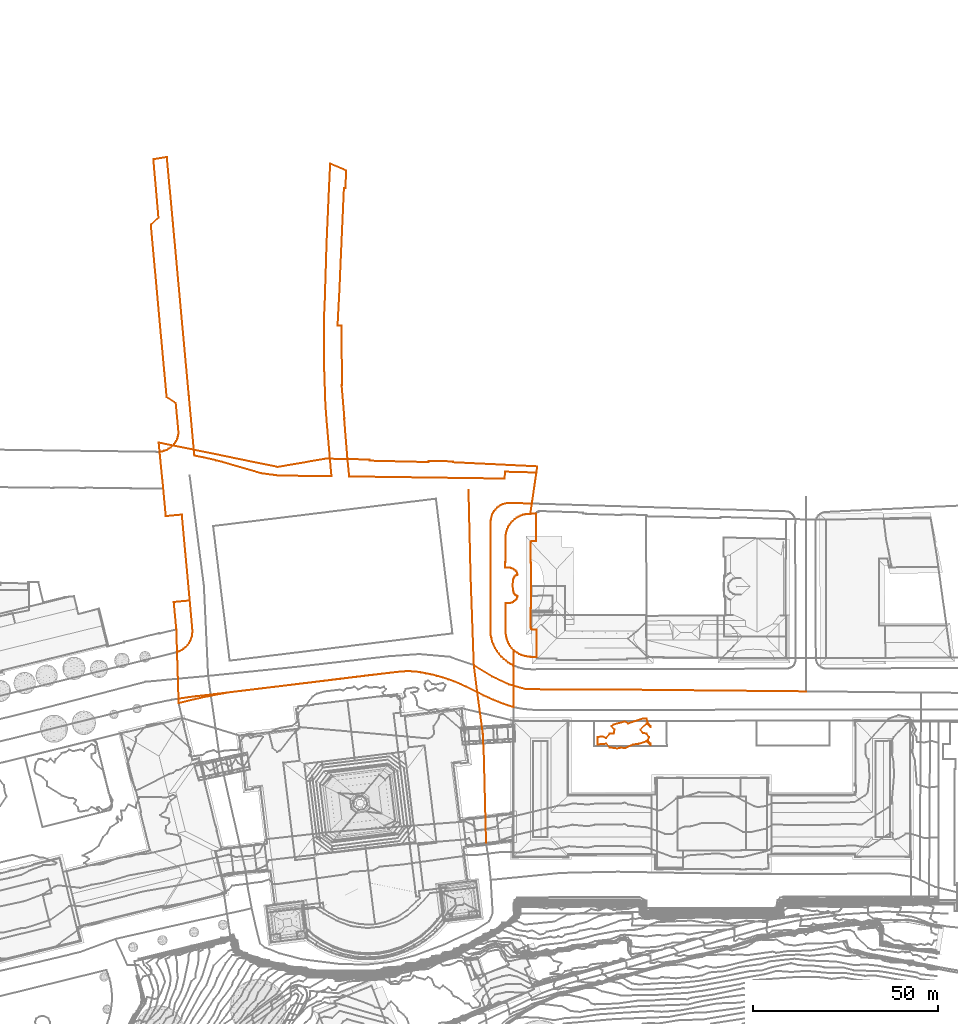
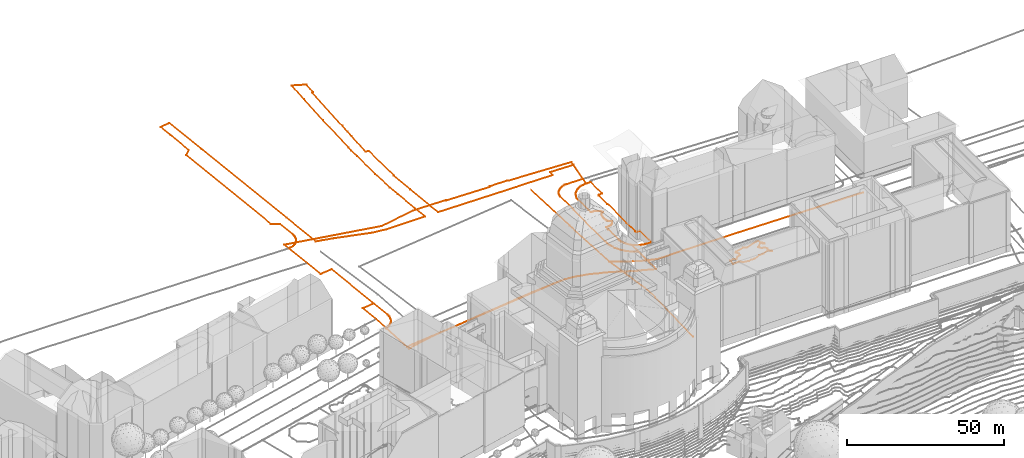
# Not in any storey, part 221 of 494: 7 proxies.
"""IFC2X3 model written with IfcOpenShell, lengths in metres."""

from ifc_helpers import new_model, entity, si_unit, frame, origin_with_axes, place, context, subcontext, project, element, save


model = new_model("IFC2X3")

# Units and contexts
model_context = context("Model", 3, precision=1e-05, world=origin_with_axes())
body_context = subcontext(model_context, "Body", "Model", "MODEL_VIEW")
ifc_project = project(units=[si_unit("AREAUNIT", "SQUARE_METRE"), si_unit("LENGTHUNIT", "METRE")], contexts=[model_context])

# Proxies
proxy_1_placement = place(None, frame((561.5467320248, 472.1697287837, 542.297), z_axis=(0.0, 0.0, 1.0), x_axis=(1.0, 0.0, 0.0)))
element("IfcBuildingElementProxy", 1, at=proxy_1_placement, Name="Road 25", ObjectType="NOTDEFINED", context=body_context, shape_type="GeometricCurveSet", body=[
    entity("IfcGeometricCurveSet", [entity("IfcPolyline", [entity("IfcCartesianPoint", [0.0, 0.0, 0.0]), entity("IfcCartesianPoint", [0.5760000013, -23.728999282, 0.206]), entity("IfcCartesianPoint", [1.4389999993, -47.6029985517, 0.356])])]),
])
proxy_2_placement = place(None, frame((562.9857320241, 424.566730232, 542.653), z_axis=(0.0, 0.0, 1.0), x_axis=(1.0, 0.0, 0.0)))
element("IfcBuildingElementProxy", 2, at=proxy_2_placement, Name="Road 26", ObjectType="NOTDEFINED", context=body_context, shape_type="GeometricCurveSet", body=[
    entity("IfcGeometricCurveSet", [entity("IfcPolyline", [entity("IfcCartesianPoint", [0.0, 0.0, 0.0]), entity("IfcCartesianPoint", [4.8900000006, -3.0199999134, 0.102]), entity("IfcCartesianPoint", [9.4910000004, -5.1759998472, 0.099]), entity("IfcCartesianPoint", [14.0930000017, -6.4709998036, -0.02]), entity("IfcCartesianPoint", [43.7400000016, -6.6069997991, 0.012]), entity("IfcCartesianPoint", [89.7010000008, -7.0479997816, -0.167])])]),
])
proxy_3_placement = place(None, frame((562.9857320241, 424.566730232, 542.653), z_axis=(0.0, 0.0, 1.0), x_axis=(1.0, 0.0, 0.0)))
element("IfcBuildingElementProxy", 3, at=proxy_3_placement, Name="Road 197", ObjectType="NOTDEFINED", context=body_context, shape_type="GeometricCurveSet", body=[
    entity("IfcGeometricCurveSet", [entity("IfcPolyline", [entity("IfcCartesianPoint", [0.0, 0.0, 0.0]), entity("IfcCartesianPoint", [1.1610000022, -9.0579997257, 0.049]), entity("IfcCartesianPoint", [2.438000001, -18.5469994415, 0.179]), entity("IfcCartesianPoint", [2.7100000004, -24.5709992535, 0.168]), entity("IfcCartesianPoint", [3.3120000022, -47.9159985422, -1.302])])]),
])
proxy_4_placement = place(None, frame((571.4827320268, 450.9747160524, 542.8571121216), z_axis=(0.0, 0.0, 1.0), x_axis=(1.0, 0.0, 0.0)))
element("IfcBuildingElementProxy", 4, at=proxy_4_placement, Name="Roads Outline 69", ObjectType="NOTDEFINED", context=body_context, shape_type="GeometricCurveSet", body=[
    entity("IfcGeometricCurveSet", [entity("IfcPolyline", [entity("IfcCartesianPoint", [0.0, 0.0, 0.0]), entity("IfcCartesianPoint", [0.0019999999, 1.5090000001, -1.40381e-05]), entity("IfcCartesianPoint", [0.0630000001, 1.517, -0.0004421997]), entity("IfcCartesianPoint", [0.0290000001, 7.8489999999, -0.0002035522]), entity("IfcCartesianPoint", [0.0519999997, 8.5090000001, -0.0003649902]), entity("IfcCartesianPoint", [0.142, 9.1629999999, -0.0009967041]), entity("IfcCartesianPoint", [0.298, 9.8049999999, -0.0020916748]), entity("IfcCartesianPoint", [0.517, 10.4280000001, -0.0036288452]), entity("IfcCartesianPoint", [0.798, 11.0249999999, -0.0045324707]), entity("IfcCartesianPoint", [1.1379999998, 11.591, -0.0033911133]), entity("IfcCartesianPoint", [1.5329999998, 12.1200000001, -0.0020651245]), entity("IfcCartesianPoint", [1.9789999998, 12.6070000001, 0.0097111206]), entity("IfcCartesianPoint", [2.4720000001, 13.0460000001, 0.0292096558]), entity("IfcCartesianPoint", [3.0060000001, 13.433, 0.037744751]), entity("IfcCartesianPoint", [3.577, 13.7650000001, 0.0372219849]), entity("IfcCartesianPoint", [4.179, 14.037, 0.0449423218]), entity("IfcCartesianPoint", [4.804, 14.247, 0.0559094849]), entity("IfcCartesianPoint", [5.4479999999, 14.3929999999, 0.0713963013]), entity("IfcCartesianPoint", [6.1030000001, 14.4739999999, 0.0801749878]), entity("IfcCartesianPoint", [6.7629999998, 14.4880000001, 0.0804135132]), entity("IfcCartesianPoint", [6.7709999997, 14.55, 0.0799569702]), entity("IfcCartesianPoint", [8.2719999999, 14.5490000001, 0.0282827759]), entity("IfcCartesianPoint", [8.3029999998, 7.4669999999, 0.0283395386]), entity("IfcCartesianPoint", [8.3029999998, 7.2169999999, 0.0283395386]), entity("IfcCartesianPoint", [7.3509999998, 7.2150000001, 0.046857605]), entity("IfcCartesianPoint", [7.3470000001, 7.1629999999, 0.0470858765]), entity("IfcCartesianPoint", [7.156, 7.1229999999, 0.0579858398]), entity("IfcCartesianPoint", [6.9950000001, 7.014, 0.0671737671]), entity("IfcCartesianPoint", [6.8879999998, 6.851, 0.0732800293]), entity("IfcCartesianPoint", [6.8509999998, 6.6599999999, 0.0753915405]), entity("IfcCartesianPoint", [6.8029999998, 6.648, 0.0781307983]), entity("IfcCartesianPoint", [6.8079999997, 1.318, 0.077845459]), entity("IfcCartesianPoint", [6.9079999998, 1.318, 0.0721386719]), entity("IfcCartesianPoint", [6.9469999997, -10.912, 0.0699130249]), entity("IfcCartesianPoint", [6.8489999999, -10.9129999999, 0.0755056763]), entity("IfcCartesianPoint", [6.8679999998, -16.2649999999, 0.0744213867]), entity("IfcCartesianPoint", [6.915, -16.2660000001, 0.0717391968]), entity("IfcCartesianPoint", [6.9509999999, -16.456, 0.0696847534]), entity("IfcCartesianPoint", [7.057, -16.6170000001, 0.0636355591]), entity("IfcCartesianPoint", [7.2209999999, -16.7290000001, 0.0542764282]), entity("IfcCartesianPoint", [7.415, -16.7690000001, 0.0432052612]), entity("IfcCartesianPoint", [7.4139999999, -16.818, 0.0432623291]), entity("IfcCartesianPoint", [8.3840000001, -16.8030000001, 0.028487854]), entity("IfcCartesianPoint", [8.3899999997, -24.1569999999, 0.054523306]), entity("IfcCartesianPoint", [6.8769999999, -24.169, 0.0649339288]), entity("IfcCartesianPoint", [6.8759999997, -24.095, 0.0657276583]), entity("IfcCartesianPoint", [6.23, -24.068, 0.0655939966]), entity("IfcCartesianPoint", [5.5889999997, -23.98, 0.0566184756]), entity("IfcCartesianPoint", [4.96, -23.8300000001, 0.0345990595]), entity("IfcCartesianPoint", [4.3479999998, -23.621, 0.029925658]), entity("IfcCartesianPoint", [3.7590000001, -23.3540000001, 0.0353835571]), entity("IfcCartesianPoint", [3.199, -23.031, 0.0375680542]), entity("IfcCartesianPoint", [2.6719999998, -22.6569999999, 0.037119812]), entity("IfcCartesianPoint", [2.1829999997, -22.233, 0.01777948]), entity("IfcCartesianPoint", [1.736, -21.763, 0.0001002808]), entity("IfcCartesianPoint", [1.3359999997, -21.2520000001, -0.0027264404]), entity("IfcCartesianPoint", [0.9879999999, -20.7050000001, -0.0038946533]), entity("IfcCartesianPoint", [0.693, -20.1270000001, -0.0048641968]), entity("IfcCartesianPoint", [0.4559999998, -19.524, -0.0032006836]), entity("IfcCartesianPoint", [0.2779999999, -18.8999999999, -0.0019512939]), entity("IfcCartesianPoint", [0.1599999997, -18.2619999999, -0.0011230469]), entity("IfcCartesianPoint", [0.105, -17.6159999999, -0.0007369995]), entity("IfcCartesianPoint", [0.0949999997, -11.1089999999, -0.0006668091]), entity("IfcCartesianPoint", [0.0209999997, -11.1000000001, -0.0001473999]), entity("IfcCartesianPoint", [0.02, -9.5900000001, -0.0001403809]), entity("IfcCartesianPoint", [0.7739999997, -9.588, -0.0046130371]), entity("IfcCartesianPoint", [0.7779999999, -9.6189999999, -0.0045996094]), entity("IfcCartesianPoint", [1.213, -9.598, -0.0031393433]), entity("IfcCartesianPoint", [1.6379999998, -9.504, -0.0017126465]), entity("IfcCartesianPoint", [2.0409999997, -9.341, 0.012163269]), entity("IfcCartesianPoint", [2.412, -9.1129999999, 0.0268366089]), entity("IfcCartesianPoint", [2.7399999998, -8.825, 0.0379882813]), entity("IfcCartesianPoint", [3.0149999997, -8.486, 0.0377365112]), entity("IfcCartesianPoint", [3.2289999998, -8.1059999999, 0.0375405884]), entity("IfcCartesianPoint", [3.3769999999, -7.6950000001, 0.0374050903]), entity("IfcCartesianPoint", [3.088, -7.6040000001, 0.0376696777]), entity("IfcCartesianPoint", [2.8219999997, -7.4579999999, 0.037913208]), entity("IfcCartesianPoint", [2.5899999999, -7.2619999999, 0.033876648]), entity("IfcCartesianPoint", [2.4019999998, -7.024, 0.0264411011]), entity("IfcCartesianPoint", [2.264, -6.754, 0.0209830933]), entity("IfcCartesianPoint", [2.1829999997, -6.4620000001, 0.01777948]), entity("IfcCartesianPoint", [2.074, -5.817, 0.0134684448]), entity("IfcCartesianPoint", [2.0159999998, -5.165, 0.0111744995]), entity("IfcCartesianPoint", [2.0109999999, -4.5109999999, 0.0109767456]), entity("IfcCartesianPoint", [2.057, -3.858, 0.0127960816]), entity("IfcCartesianPoint", [2.1540000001, -3.2109999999, 0.0166325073]), entity("IfcCartesianPoint", [2.2390000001, -2.916, 0.0199943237]), entity("IfcCartesianPoint", [2.378, -2.642, 0.0254918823]), entity("IfcCartesianPoint", [2.5669999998, -2.3999999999, 0.03296698]), entity("IfcCartesianPoint", [2.7990000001, -2.1980000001, 0.0379342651]), entity("IfcCartesianPoint", [3.0639999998, -2.0430000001, 0.0376916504]), entity("IfcCartesianPoint", [3.3539999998, -1.942, 0.0374261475]), entity("IfcCartesianPoint", [3.2059999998, -1.5289999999, 0.0375616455]), entity("IfcCartesianPoint", [2.9929999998, -1.1459999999, 0.0377566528]), entity("IfcCartesianPoint", [2.7199999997, -0.8030000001, 0.0380065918]), entity("IfcCartesianPoint", [2.3939999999, -0.51, 0.0261246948]), entity("IfcCartesianPoint", [2.0249999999, -0.274, 0.0115304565]), entity("IfcCartesianPoint", [1.622, -0.102, -0.0017663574]), entity("IfcCartesianPoint", [1.1969999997, 0.0020000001, -0.0031930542]), entity("IfcCartesianPoint", [0.7599999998, 0.0349999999, -0.0046600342]), entity("IfcCartesianPoint", [0.7560000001, -0.004, -0.0046734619]), entity("IfcCartesianPoint", [0.0, 0.0, 0.0])])]),
])
proxy_5_placement = place(None, frame((475.7277320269, 543.5787160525, 542.5539154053), z_axis=(0.0, 0.0, 1.0), x_axis=(1.0, 0.0, 0.0)))
element("IfcBuildingElementProxy", 5, at=proxy_5_placement, Name="Roads Outline 94", ObjectType="NOTDEFINED", context=body_context, shape_type="GeometricCurveSet", body=[
    entity("IfcGeometricCurveSet", [entity("IfcPolyline", [entity("IfcCartesianPoint", [0.0, 0.0, 0.0]), entity("IfcCartesianPoint", [2.068, 1.969, -0.0192946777]), entity("IfcCartesianPoint", [1.173, 12.1569999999, 0.0020645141]), entity("IfcCartesianPoint", [0.6849999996, 17.71, 0.0102554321]), entity("IfcCartesianPoint", [4.3239999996, 18.311, -0.0827115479]), entity("IfcCartesianPoint", [5.9589999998, 0.561, -0.1029297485]), entity("IfcCartesianPoint", [10.2699999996, -46.219, -0.0185211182]), entity("IfcCartesianPoint", [11.6189999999, -60.8659999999, -0.0131240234]), entity("IfcCartesianPoint", [11.7569999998, -62.3700000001, -0.0143537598]), entity("IfcCartesianPoint", [13.997, -62.8130000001, -0.0205556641]), entity("IfcCartesianPoint", [16.2249999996, -63.3090000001, -0.02893219]), entity("IfcCartesianPoint", [17.6859999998, -63.662, -0.052362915]), entity("IfcCartesianPoint", [19.1409999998, -64.04, -0.0673772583]), entity("IfcCartesianPoint", [29.8309999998, -67.142, -0.0167514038]), entity("IfcCartesianPoint", [32.8829999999, -67.5420000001, 0.0063792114]), entity("IfcCartesianPoint", [34.5439999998, -67.757, 0.0079638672]), entity("IfcCartesianPoint", [48.804, -67.943, 0.1550906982]), entity("IfcCartesianPoint", [48.3389999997, -62.6040000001, 0.1613712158]), entity("IfcCartesianPoint", [47.4699999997, -52.6629999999, 0.1452471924]), entity("IfcCartesianPoint", [47.1569999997, -48.267, 0.1482918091]), entity("IfcCartesianPoint", [46.8639999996, -39.4990000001, 0.1517075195]), entity("IfcCartesianPoint", [46.7969999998, -28.0160000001, 0.1524885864]), entity("IfcCartesianPoint", [46.7869999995, -24.4110000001, 0.1526051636]), entity("IfcCartesianPoint", [46.9349999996, -22.5430000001, 0.1508798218]), entity("IfcCartesianPoint", [47.4749999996, -5.048, 0.1453399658]), entity("IfcCartesianPoint", [48.0489999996, 8.024, 0.1559903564]), entity("IfcCartesianPoint", [48.4509999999, 16.507, 0.1634072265]), entity("IfcCartesianPoint", [52.7899999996, 14.635, 0.1413446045]), entity("IfcCartesianPoint", [52.5549999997, 9.8640000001, 0.1195285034]), entity("IfcCartesianPoint", [52.173, 9.871, 0.110220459]), entity("IfcCartesianPoint", [51.2369999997, -10.977, 0.1190900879]), entity("IfcCartesianPoint", [51.0929999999, -14.4639999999, 0.124310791]), entity("IfcCartesianPoint", [50.9699999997, -17.3460000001, 0.1287701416]), entity("IfcCartesianPoint", [50.4469999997, -27.2210000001, 0.1475994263]), entity("IfcCartesianPoint", [51.4689999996, -27.2150000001, 0.1113376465]), entity("IfcCartesianPoint", [51.6919999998, -43.253, 0.1109837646]), entity("IfcCartesianPoint", [51.5419999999, -43.2450000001, 0.1112218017]), entity("IfcCartesianPoint", [52.3129999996, -52.3970000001, 0.109998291]), entity("IfcCartesianPoint", [52.2309999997, -52.419, 0.110128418]), entity("IfcCartesianPoint", [53.0979999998, -63.0250000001, 0.1699376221]), entity("IfcCartesianPoint", [53.608, -68.0, 0.204293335]), entity("IfcCartesianPoint", [95.6009999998, -68.5790000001, 0.3042776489]), entity("IfcCartesianPoint", [95.6579999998, -66.7169999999, 0.3038775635]), entity("IfcCartesianPoint", [104.1429999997, -66.949, 0.3316918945]), entity("IfcCartesianPoint", [102.9219999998, -75.3300000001, 0.3605548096]), entity("IfcCartesianPoint", [96.835, -75.1440000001, 0.2996109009]), entity("IfcCartesianPoint", [96.227, -75.189, 0.299883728]), entity("IfcCartesianPoint", [95.6289999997, -75.307, 0.3040811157]), entity("IfcCartesianPoint", [95.0489999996, -75.4950000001, 0.2843623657]), entity("IfcCartesianPoint", [94.4959999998, -75.7509999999, 0.2554365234]), entity("IfcCartesianPoint", [93.977, -76.0719999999, 0.2195993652]), entity("IfcCartesianPoint", [93.5009999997, -76.452, 0.1859562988]), entity("IfcCartesianPoint", [93.0729999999, -76.8859999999, 0.1913717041]), entity("IfcCartesianPoint", [92.7259999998, -77.331, 0.1996739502]), entity("IfcCartesianPoint", [92.4299999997, -77.811, 0.206116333]), entity("IfcCartesianPoint", [92.1889999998, -78.321, 0.2041746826]), entity("IfcCartesianPoint", [92.0049999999, -78.855, 0.2026922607]), entity("IfcCartesianPoint", [91.8819999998, -79.405, 0.2017012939]), entity("IfcCartesianPoint", [91.8199999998, -79.966, 0.2012017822]), entity("IfcCartesianPoint", [91.804, -88.4280000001, 0.201072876]), entity("IfcCartesianPoint", [91.7419999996, -108.9920000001, 0.2005733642]), entity("IfcCartesianPoint", [91.7509999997, -109.9070000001, 0.200645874]), entity("IfcCartesianPoint", [91.8389999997, -110.817, 0.2013548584]), entity("IfcCartesianPoint", [92.0049999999, -111.7169999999, 0.2026922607]), entity("IfcCartesianPoint", [92.2479999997, -112.5989999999, 0.2046500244]), entity("IfcCartesianPoint", [92.5669999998, -113.456, 0.2034781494]), entity("IfcCartesianPoint", [92.9879999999, -114.308, 0.1934053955]), entity("IfcCartesianPoint", [93.4789999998, -115.121, 0.1844013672]), entity("IfcCartesianPoint", [94.0359999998, -115.8900000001, 0.2237694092]), entity("IfcCartesianPoint", [94.656, -116.611, 0.2171382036]), entity("IfcCartesianPoint", [95.3329999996, -117.277, 0.2289878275]), entity("IfcCartesianPoint", [95.9099999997, -117.773, 0.2201619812]), entity("IfcCartesianPoint", [96.5209999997, -118.227, 0.2079171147]), entity("IfcCartesianPoint", [97.1629999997, -118.6359999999, 0.2203788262]), entity("IfcCartesianPoint", [97.8319999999, -118.9980000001, 0.2086549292]), entity("IfcCartesianPoint", [97.8939999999, -119.0290000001, 0.2093431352]), entity("IfcCartesianPoint", [97.9569999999, -119.0590000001, 0.209908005]), entity("IfcCartesianPoint", [98.0069999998, -130.327, 0.2071816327]), entity("IfcCartesianPoint", [96.5839999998, -129.8829999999, 0.2990650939]), entity("IfcCartesianPoint", [95.1739999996, -129.3970000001, 0.3613275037]), entity("IfcCartesianPoint", [93.7799999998, -128.8689999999, 0.3567286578]), entity("IfcCartesianPoint", [92.4819999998, -128.3360000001, 0.2984995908]), entity("IfcCartesianPoint", [91.1989999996, -127.7650000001, 0.2862902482]), entity("IfcCartesianPoint", [89.9329999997, -127.159, 0.2777900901]), entity("IfcCartesianPoint", [85.1619999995, -124.8090000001, 0.273824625]), entity("IfcCartesianPoint", [83.608, -124.0819999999, 0.2024933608]), entity("IfcCartesianPoint", [82.0259999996, -123.4180000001, 0.1585220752]), entity("IfcCartesianPoint", [80.4189999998, -122.817, 0.0880784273]), entity("IfcCartesianPoint", [78.8979999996, -122.314, 0.1956160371]), entity("IfcCartesianPoint", [77.3589999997, -121.8689999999, 0.1893990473]), entity("IfcCartesianPoint", [75.804, -121.4820000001, 0.1487499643]), entity("IfcCartesianPoint", [74.3869999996, -121.179, 0.2145759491]), entity("IfcCartesianPoint", [72.96, -120.923, 0.2013105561]), entity("IfcCartesianPoint", [71.5259999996, -120.7139999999, 0.1427921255]), entity("IfcCartesianPoint", [70.1439999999, -120.632, 0.1293564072]), entity("IfcCartesianPoint", [68.7589999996, -120.6300000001, 0.1315564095]), entity("IfcCartesianPoint", [67.3769999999, -120.7069999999, 0.1459653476]), entity("IfcCartesianPoint", [66.0009999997, -120.8640000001, 0.1983923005]), entity("IfcCartesianPoint", [57.267, -121.8910000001, 0.3451753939]), entity("IfcCartesianPoint", [48.3589999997, -122.9890000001, 0.3610978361]), entity("IfcCartesianPoint", [38.7429999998, -124.173, 0.2636224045]), entity("IfcCartesianPoint", [28.3269999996, -125.436, 0.1494456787]), entity("IfcCartesianPoint", [17.2709999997, -126.797, 0.1839821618]), entity("IfcCartesianPoint", [12.1879999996, -127.378, 0.1824178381]), entity("IfcCartesianPoint", [9.8309999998, -127.6670000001, 0.1945774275]), entity("IfcCartesianPoint", [7.483, -128.017, 0.1868761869]), entity("IfcCartesianPoint", [7.4369999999, -126.5430000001, 0.0805358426]), entity("IfcCartesianPoint", [7.0869999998, -115.4440000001, -0.0860911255]), entity("IfcCartesianPoint", [7.7279999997, -115.2, -0.0601732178]), entity("IfcCartesianPoint", [8.3359999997, -114.8829999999, -0.0184622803]), entity("IfcCartesianPoint", [8.9039999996, -114.4980000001, -0.0129691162]), entity("IfcCartesianPoint", [9.423, -114.051, -0.0156300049]), entity("IfcCartesianPoint", [9.8879999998, -113.547, -0.0172387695]), entity("IfcCartesianPoint", [10.2849999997, -113.0020000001, -0.0185714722]), entity("IfcCartesianPoint", [10.6179999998, -112.416, -0.0178641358]), entity("IfcCartesianPoint", [10.8819999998, -111.797, -0.0158822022]), entity("IfcCartesianPoint", [11.0749999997, -111.1510000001, -0.0144332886]), entity("IfcCartesianPoint", [11.1939999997, -110.4880000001, -0.013539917]), entity("IfcCartesianPoint", [11.2379999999, -109.8149999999, -0.0132095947]), entity("IfcCartesianPoint", [11.2049999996, -109.142, -0.0134573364]), entity("IfcCartesianPoint", [10.5149999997, -101.5090000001, -0.0186373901]), entity("IfcCartesianPoint", [8.372, -78.2920000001, -0.0159925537]), entity("IfcCartesianPoint", [4.0389999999, -78.7080000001, -0.074814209]), entity("IfcCartesianPoint", [3.358, -71.3149999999, -0.0558370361]), entity("IfcCartesianPoint", [2.3659999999, -61.3260000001, -0.0273521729]), entity("IfcCartesianPoint", [3.0099999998, -61.2290000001, -0.0457904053]), entity("IfcCartesianPoint", [3.639, -61.0600000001, -0.0637302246]), entity("IfcCartesianPoint", [4.2449999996, -60.8200000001, -0.0805224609]), entity("IfcCartesianPoint", [4.8189999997, -60.513, -0.0942208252]), entity("IfcCartesianPoint", [5.355, -60.1429999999, -0.1058673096]), entity("IfcCartesianPoint", [5.8459999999, -59.7150000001, -0.1040401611]), entity("IfcCartesianPoint", [6.2419999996, -59.307, -0.1001488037]), entity("IfcCartesianPoint", [6.5889999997, -58.8570000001, -0.0954833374]), entity("IfcCartesianPoint", [6.8819999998, -58.371, -0.0899573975]), entity("IfcCartesianPoint", [7.1189999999, -57.8540000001, -0.0854876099]), entity("IfcCartesianPoint", [7.281, -57.3670000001, -0.082432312]), entity("IfcCartesianPoint", [7.392, -56.865, -0.0803388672]), entity("IfcCartesianPoint", [7.4509999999, -56.355, -0.0791763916]), entity("IfcCartesianPoint", [7.4569999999, -55.841, -0.0787647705]), entity("IfcCartesianPoint", [7.4109999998, -55.3300000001, -0.0799805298]), entity("IfcCartesianPoint", [6.7369999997, -48.2139999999, -0.0926920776]), entity("IfcCartesianPoint", [4.2819999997, -46.5989999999, -0.0815477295]), entity("IfcCartesianPoint", [0.0, 0.0, 0.0])])]),
])
proxy_6_placement = place(None, frame((477.8487320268, 484.7277160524, 542.5331876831), z_axis=(0.0, 0.0, 1.0), x_axis=(1.0, 0.0, 0.0)))
element("IfcBuildingElementProxy", 6, at=proxy_6_placement, Name="Cadastre 15", ObjectType="NOTDEFINED", context=body_context, shape_type="GeometricCurveSet", body=[
    entity("IfcGeometricCurveSet", [entity("IfcPolyline", [entity("IfcCartesianPoint", [0.0, 0.0, 0.0]), entity("IfcCartesianPoint", [32.1209999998, -6.5719999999, 0.0270525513]), entity("IfcCartesianPoint", [45.0970000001, -4.3419999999, 0.1683084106]), entity("IfcCartesianPoint", [51.2650000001, -4.4569999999, 0.2174016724]), entity("IfcCartesianPoint", [57.0120000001, -4.588, 0.2562436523]), entity("IfcCartesianPoint", [57.0079999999, -4.895, 0.2562629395]), entity("IfcCartesianPoint", [72.8620000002, -5.2709999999, 0.2617970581]), entity("IfcCartesianPoint", [72.8700000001, -4.9609999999, 0.2622413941]), entity("IfcCartesianPoint", [79.2889999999, -5.0819999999, 0.32068927]), entity("IfcCartesianPoint", [79.5019999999, -5.0870000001, 0.3230310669]), entity("IfcCartesianPoint", [79.4909999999, -5.317, 0.3228591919]), entity("IfcCartesianPoint", [102.2659999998, -6.422, 0.352866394]), entity("IfcCartesianPoint", [100.4049999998, -19.203, 0.4038814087]), entity("IfcCartesianPoint", [100.3969999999, -19.2649999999, 0.4043379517]), entity("IfcCartesianPoint", [99.7370000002, -19.2790000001, 0.4040994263]), entity("IfcCartesianPoint", [99.0819999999, -19.3600000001, 0.3953207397]), entity("IfcCartesianPoint", [98.4380000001, -19.5060000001, 0.3798339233]), entity("IfcCartesianPoint", [97.8130000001, -19.716, 0.3688667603]), entity("IfcCartesianPoint", [97.2110000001, -19.9879999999, 0.3611464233]), entity("IfcCartesianPoint", [96.6400000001, -20.3200000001, 0.3616691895]), entity("IfcCartesianPoint", [96.1060000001, -20.7069999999, 0.3531340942]), entity("IfcCartesianPoint", [95.6129999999, -21.1459999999, 0.3336355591]), entity("IfcCartesianPoint", [95.1669999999, -21.6329999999, 0.321859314]), entity("IfcCartesianPoint", [94.7719999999, -22.162, 0.3205333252]), entity("IfcCartesianPoint", [94.432, -22.7280000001, 0.3193919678]), entity("IfcCartesianPoint", [94.1510000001, -23.325, 0.3202955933]), entity("IfcCartesianPoint", [93.932, -23.9480000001, 0.3218327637]), entity("IfcCartesianPoint", [93.7760000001, -24.5900000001, 0.3229277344]), entity("IfcCartesianPoint", [93.6859999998, -25.2439999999, 0.3235594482]), entity("IfcCartesianPoint", [93.6630000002, -25.9040000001, 0.3237208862]), entity("IfcCartesianPoint", [93.6970000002, -32.236, 0.3234822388]), entity("IfcCartesianPoint", [93.6359999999, -32.2439999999, 0.3239104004]), entity("IfcCartesianPoint", [93.6340000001, -33.753, 0.3239244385]), entity("IfcCartesianPoint", [94.3900000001, -33.757, 0.3192509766]), entity("IfcCartesianPoint", [94.3939999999, -33.7180000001, 0.3192644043]), entity("IfcCartesianPoint", [94.8309999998, -33.7509999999, 0.3207313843]), entity("IfcCartesianPoint", [95.2560000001, -33.855, 0.3221580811]), entity("IfcCartesianPoint", [95.659, -34.027, 0.335454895]), entity("IfcCartesianPoint", [96.0279999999, -34.263, 0.3500491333]), entity("IfcCartesianPoint", [96.3539999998, -34.5560000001, 0.3619310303]), entity("IfcCartesianPoint", [96.6269999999, -34.899, 0.3616810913]), entity("IfcCartesianPoint", [96.8399999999, -35.2819999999, 0.361486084]), entity("IfcCartesianPoint", [96.9879999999, -35.6950000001, 0.3613505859]), entity("IfcCartesianPoint", [96.6979999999, -35.7960000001, 0.3616160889]), entity("IfcCartesianPoint", [96.4330000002, -35.9510000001, 0.3618587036]), entity("IfcCartesianPoint", [96.2009999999, -36.1529999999, 0.3568914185]), entity("IfcCartesianPoint", [96.0120000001, -36.395, 0.3494163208]), entity("IfcCartesianPoint", [95.8730000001, -36.669, 0.3439187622]), entity("IfcCartesianPoint", [95.7880000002, -36.9639999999, 0.3405569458]), entity("IfcCartesianPoint", [95.6910000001, -37.611, 0.33672052]), entity("IfcCartesianPoint", [95.645, -38.264, 0.3349011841]), entity("IfcCartesianPoint", [95.6499999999, -38.9180000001, 0.335098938]), entity("IfcCartesianPoint", [95.7080000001, -39.5700000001, 0.3373928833]), entity("IfcCartesianPoint", [95.8169999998, -40.2150000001, 0.3417039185]), entity("IfcCartesianPoint", [95.898, -40.507, 0.3449075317]), entity("IfcCartesianPoint", [96.0359999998, -40.777, 0.3503655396]), entity("IfcCartesianPoint", [96.2239999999, -41.0149999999, 0.3578010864]), entity("IfcCartesianPoint", [96.4559999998, -41.2109999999, 0.3618376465]), entity("IfcCartesianPoint", [96.7220000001, -41.3570000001, 0.3615941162]), entity("IfcCartesianPoint", [97.0109999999, -41.4480000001, 0.3613295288]), entity("IfcCartesianPoint", [96.8629999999, -41.8589999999, 0.3614650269]), entity("IfcCartesianPoint", [96.6489999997, -42.2390000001, 0.3616609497]), entity("IfcCartesianPoint", [96.3739999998, -42.578, 0.3619127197]), entity("IfcCartesianPoint", [96.0460000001, -42.8659999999, 0.3507610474]), entity("IfcCartesianPoint", [95.6749999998, -43.094, 0.3360877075]), entity("IfcCartesianPoint", [95.2719999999, -43.257, 0.322211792]), entity("IfcCartesianPoint", [94.8470000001, -43.351, 0.3207850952]), entity("IfcCartesianPoint", [94.412, -43.372, 0.3193248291]), entity("IfcCartesianPoint", [94.4079999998, -43.341, 0.3193114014]), entity("IfcCartesianPoint", [93.6540000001, -43.3430000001, 0.3237840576]), entity("IfcCartesianPoint", [93.6549999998, -44.8530000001, 0.3237770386]), entity("IfcCartesianPoint", [93.7289999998, -44.862, 0.3232576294]), entity("IfcCartesianPoint", [93.7390000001, -51.3689999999, 0.323187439]), entity("IfcCartesianPoint", [93.7939999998, -52.0149999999, 0.3228013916]), entity("IfcCartesianPoint", [93.912, -52.6529999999, 0.3219731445]), entity("IfcCartesianPoint", [94.0899999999, -53.277, 0.3207237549]), entity("IfcCartesianPoint", [94.327, -53.8800000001, 0.3190602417]), entity("IfcCartesianPoint", [94.622, -54.4580000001, 0.3200297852]), entity("IfcCartesianPoint", [94.9699999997, -55.0050000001, 0.321197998]), entity("IfcCartesianPoint", [95.3700000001, -55.5160000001, 0.3240247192]), entity("IfcCartesianPoint", [95.8169999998, -55.986, 0.3417039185]), entity("IfcCartesianPoint", [95.8859999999, -71.476, 0.2279093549]), entity("IfcCartesianPoint", [94.463, -71.0319999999, 0.3197928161]), entity("IfcCartesianPoint", [93.0529999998, -70.5460000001, 0.3820552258]), entity("IfcCartesianPoint", [91.659, -70.0179999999, 0.37745638]), entity("IfcCartesianPoint", [90.361, -69.4850000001, 0.319227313]), entity("IfcCartesianPoint", [89.0779999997, -68.9140000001, 0.3070179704]), entity("IfcCartesianPoint", [87.8119999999, -68.308, 0.2985178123]), entity("IfcCartesianPoint", [83.0409999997, -65.9580000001, 0.2945523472]), entity("IfcCartesianPoint", [81.4870000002, -65.2309999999, 0.223221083]), entity("IfcCartesianPoint", [79.9049999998, -64.567, 0.1792497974]), entity("IfcCartesianPoint", [78.298, -63.966, 0.1088061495]), entity("IfcCartesianPoint", [76.7769999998, -63.463, 0.2163437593]), entity("IfcCartesianPoint", [75.2379999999, -63.0179999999, 0.2101267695]), entity("IfcCartesianPoint", [73.6830000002, -62.6310000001, 0.1694776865]), entity("IfcCartesianPoint", [72.2659999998, -62.328, 0.2353036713]), entity("IfcCartesianPoint", [70.8390000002, -62.0719999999, 0.2220382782]), entity("IfcCartesianPoint", [69.4049999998, -61.8629999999, 0.1635198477]), entity("IfcCartesianPoint", [68.023, -61.781, 0.1500841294]), entity("IfcCartesianPoint", [66.6379999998, -61.7790000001, 0.1522841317]), entity("IfcCartesianPoint", [65.2560000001, -61.8559999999, 0.1666930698]), entity("IfcCartesianPoint", [63.8799999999, -62.013, 0.2191200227]), entity("IfcCartesianPoint", [18.9049999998, -67.4839999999, 0.1672072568]), entity("IfcCartesianPoint", [15.5049999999, -68.0919999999, 0.215238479]), entity("IfcCartesianPoint", [12.1189999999, -68.7790000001, 0.2181147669]), entity("IfcCartesianPoint", [8.75, -69.544, 0.2387253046]), entity("IfcCartesianPoint", [5.3999999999, -70.3859999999, 0.2248605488]), entity("IfcCartesianPoint", [4.773, -50.4639999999, -0.0690033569]), entity("IfcCartesianPoint", [4.0800000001, -43.0660000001, -0.0798239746]), entity("IfcCartesianPoint", [8.3939999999, -42.6580000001, 0.002090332]), entity("IfcCartesianPoint", [6.2510000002, -19.4410000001, 0.0047351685]), entity("IfcCartesianPoint", [1.9180000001, -19.8570000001, -0.0540864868]), entity("IfcCartesianPoint", [1.2370000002, -12.4639999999, -0.035109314]), entity("IfcCartesianPoint", [0.0, 0.0, 0.0])])]),
])
proxy_7_placement = place(None, frame((596.4104212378, 405.1707160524, 543.0), z_axis=(0.0, 0.0, 1.0), x_axis=(1.0, 0.0, 0.0)))
element("IfcBuildingElementProxy", 7, at=proxy_7_placement, Name="Contour Line 543.0 m", ObjectType="NOTDEFINED", context=body_context, shape_type="GeometricCurveSet", body=[
    entity("IfcGeometricCurveSet", [entity("IfcPolyline", [entity("IfcCartesianPoint", [7.3619930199, -3.0, 0.0]), entity("IfcCartesianPoint", [6.2673107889, -2.83518797, 0.0]), entity("IfcCartesianPoint", [5.2673107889, -3.0811068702, 0.0]), entity("IfcCartesianPoint", [3.2673107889, -2.7756041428, 0.0]), entity("IfcCartesianPoint", [2.2673107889, -1.7864992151, 0.0]), entity("IfcCartesianPoint", [0.00504085, -2.0, 0.0]), entity("IfcCartesianPoint", [0.0, 0.0, 0.0]), entity("IfcCartesianPoint", [1.2673107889, 0.2111618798, 0.0]), entity("IfcCartesianPoint", [2.2673107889, -0.2621502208, 0.0]), entity("IfcCartesianPoint", [3.2673107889, 0.9516806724, 0.0]), entity("IfcCartesianPoint", [4.3670483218, 1.0, 0.0]), entity("IfcCartesianPoint", [4.5628697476, 2.0, 0.0]), entity("IfcCartesianPoint", [3.794271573, 3.0, 0.0]), entity("IfcCartesianPoint", [4.2673107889, 3.4031331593, 0.0]), entity("IfcCartesianPoint", [7.2673107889, 4.2005181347, 0.0]), entity("IfcCartesianPoint", [8.2673107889, 3.6947712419, 0.0]), entity("IfcCartesianPoint", [12.2673107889, 5.0598481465, 0.0]), entity("IfcCartesianPoint", [13.2673107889, 5.0479951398, 0.0]), entity("IfcCartesianPoint", [13.5153576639, 4.0, 0.0]), entity("IfcCartesianPoint", [14.380505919, 3.0, 0.0]), entity("IfcCartesianPoint", [14.2673107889, 2.689530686, 0.0]), entity("IfcCartesianPoint", [13.2673107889, 3.7062451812, 0.0]), entity("IfcCartesianPoint", [11.5513517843, 2.0, 0.0]), entity("IfcCartesianPoint", [12.2673107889, 1.1436077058, 0.0]), entity("IfcCartesianPoint", [13.2673107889, 0.8887122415, 0.0]), entity("IfcCartesianPoint", [13.8538795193, 0.0, 0.0]), entity("IfcCartesianPoint", [13.5238650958, -1.0, 0.0]), entity("IfcCartesianPoint", [14.2673107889, -1.6844827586, 0.0]), entity("IfcCartesianPoint", [14.2673107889, -2.1260330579, 0.0]), entity("IfcCartesianPoint", [13.2673107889, -1.0982078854, 0.0]), entity("IfcCartesianPoint", [11.2673107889, -1.788880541, 0.0]), entity("IfcCartesianPoint", [9.5965118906, -2.0, 0.0]), entity("IfcCartesianPoint", [7.3619930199, -3.0, 0.0])])]),
])

save(model, "model.ifc")
